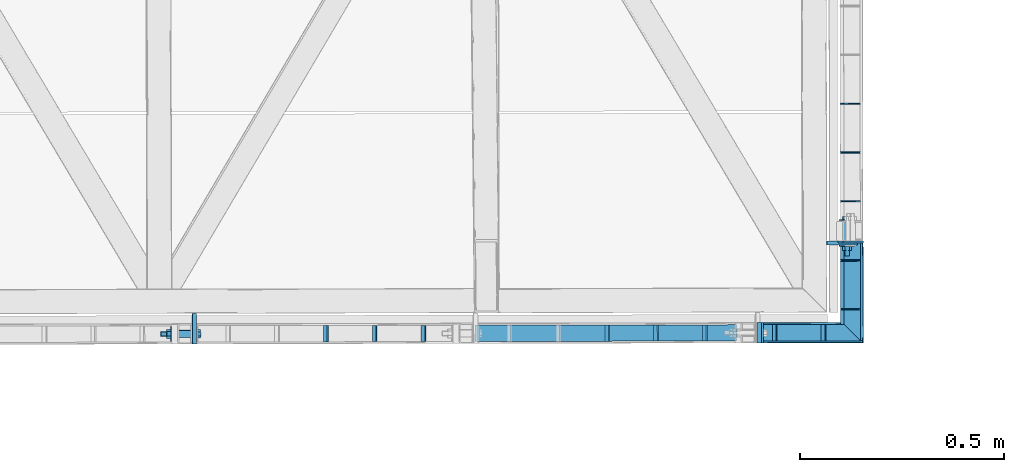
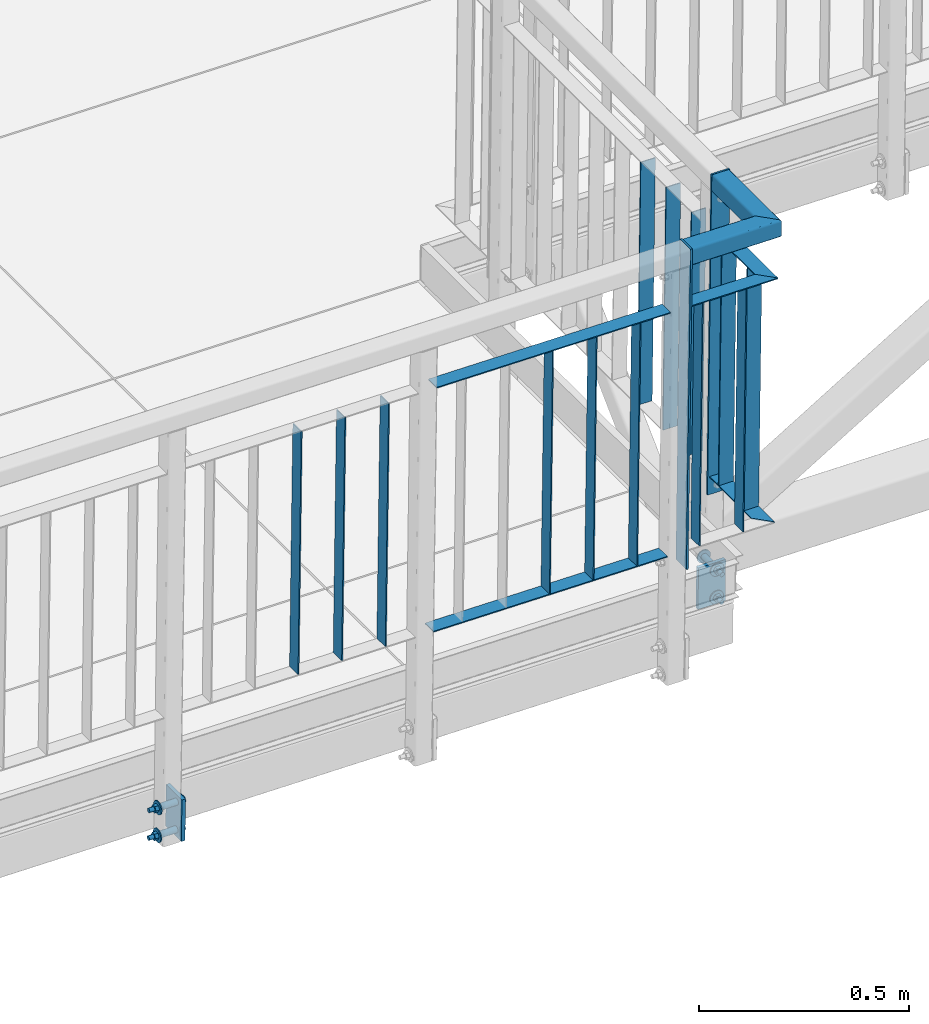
# One storey, part 100 of 169: 24 discrete accessories, 2 mechanical fasteners, 2 elements without a shape of their own.
"""IFC2X3 building model written with IfcOpenShell, lengths in millimetres."""

from ifc_helpers import new_model, si_unit, frame, origin_with_axes, origin_2d_with_axis, place, context, subcontext, project, spatial, polyline, rectangle, hollow_rectangle, circle, outline, extrude, boolean, clip, halfspace, source, transform, mapped, material, type_object, element, aggregate, save


model = new_model("IFC2X3")

# Units and contexts
model_context = context("Model", 3, precision=1e-05, world=origin_with_axes())
body_context = subcontext(model_context, "Body", "Model", "MODEL_VIEW")
ifc_project = project(units=[si_unit("LENGTHUNIT", "METRE", prefix="MILLI"), si_unit("AREAUNIT", "SQUARE_METRE"), si_unit("VOLUMEUNIT", "CUBIC_METRE"), si_unit("MASSUNIT", "GRAM", prefix="KILO"), si_unit("TIMEUNIT", "SECOND"), si_unit("PLANEANGLEUNIT", "RADIAN"), si_unit("SOLIDANGLEUNIT", "STERADIAN"), si_unit("THERMODYNAMICTEMPERATUREUNIT", "DEGREE_CELSIUS"), si_unit("LUMINOUSINTENSITYUNIT", "LUMEN")], contexts=[model_context])

# Site, building, storey
site_placement = place(None, origin_with_axes())
site = spatial("IfcSite", under=ifc_project, at=site_placement, Name="Undefined", CompositionType="ELEMENT")
building_placement = place(site_placement, origin_with_axes())
building = spatial("IfcBuilding", under=site, at=building_placement, Name="Undefined", CompositionType="ELEMENT")
storey_placement = place(building_placement, origin_with_axes())
storey = spatial("IfcBuildingStorey", under=building, at=storey_placement, Name="Undefined", CompositionType="ELEMENT", Elevation=0.0)

# Assembly, discrete accessories
assembly_1_placement = place(storey_placement, origin_with_axes())
assembly_1 = element("IfcElementAssembly", 1, at=assembly_1_placement, inside=storey, Name="Steel Assembly", AssemblyPlace="NOTDEFINED", PredefinedType="RIGID_FRAME")
ifc_material_1 = material(Name="STEEL/S235")
discrete_accessory_type_1 = type_object("IfcDiscreteAccessoryType", Name="BLACHA")
discrete_accessory_1_placement = place(assembly_1_placement, frame((10208.3723872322, -1263.45115133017, 14083.5351938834), z_axis=(0.00186484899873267, -0.999998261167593, 4.28757666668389e-08), x_axis=(0.9999174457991, 0.00186469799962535, -0.0127131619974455)))
discrete_accessory_1 = element("IfcDiscreteAccessory", 2, at=discrete_accessory_1_placement, type_object=discrete_accessory_type_1, material=ifc_material_1, Name="BLACHA", ObjectType="BL5*50", context=body_context, shape_type="SweptSolid", body=[
    extrude(outline(polyline([(0.0, 0.0), (50.0000000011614, 3.27418092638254e-11), (50.0000000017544, 926.000000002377), (3.10365066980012e-08, 926.000000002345), (0.0, 0.0)])), frame((6.80888809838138e-19, -2.87858853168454e-21, -2.49999999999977), z_axis=(0.0, 0.0, 1.0), x_axis=(1.0, 0.0, 0.0)), (0.0, 0.0, 1.0), 5.0),
])
discrete_accessory_2_placement = place(assembly_1_placement, frame((10011.2569939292, -1461.31908740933, 14086.0460518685), z_axis=(-0.999917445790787, -0.00186469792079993, 0.0127131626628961), x_axis=(0.00186484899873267, -0.999998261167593, 4.28757666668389e-08)))
discrete_accessory_2 = element("IfcDiscreteAccessory", 3, at=discrete_accessory_2_placement, type_object=discrete_accessory_type_1, material=ifc_material_1, Name="BLACHA", ObjectType="BL5*50", context=body_context, shape_type="SweptSolid", body=[
    extrude(outline(polyline([(0.0, 0.0), (50.0000000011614, 3.27418092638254e-11), (50.0000000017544, 926.000000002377), (3.10365066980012e-08, 926.000000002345), (0.0, 0.0)])), frame((6.80888809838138e-19, -2.87858853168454e-21, -2.49999999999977), z_axis=(0.0, 0.0, 1.0), x_axis=(1.0, 0.0, 0.0)), (0.0, 0.0, 1.0), 5.0),
])

assembly_2_placement = place(storey_placement, origin_with_axes())
assembly_2 = element("IfcElementAssembly", 4, at=assembly_2_placement, inside=storey, Name="Steel Assembly", AssemblyPlace="NOTDEFINED", PredefinedType="RIGID_FRAME")
discrete_accessory_3_placement = place(assembly_2_placement, frame((10180.0864101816, -1266.00392008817, 13824.8739542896), z_axis=(0.00186484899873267, -0.999998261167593, 4.28757666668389e-08), x_axis=(0.9999174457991, 0.00186469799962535, -0.0127131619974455)))
discrete_accessory_3 = element("IfcDiscreteAccessory", 5, at=discrete_accessory_3_placement, type_object=discrete_accessory_type_1, material=ifc_material_1, Name="BLACHA", ObjectType="BL10*120", context=body_context, shape_type="SweptSolid", body=[
    extrude(outline(polyline([(-5.35749222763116e-11, -59.9999999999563), (5.3567816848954e-11, 59.9999999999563), (75.0000002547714, 59.9999999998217), (75.0000002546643, -60.0000000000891), (-5.35749222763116e-11, -59.9999999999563)])), frame((-1.81898926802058e-12, -1.18000176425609e-16, -5.00000000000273), z_axis=(0.0, 0.0, 1.0), x_axis=(1.0, 0.0, 0.0)), (0.0, 0.0, 1.0), 10.0),
])
discrete_accessory_4_placement = place(assembly_2_placement, frame((8626.53152745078, -1438.90136338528, 13844.6302178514), z_axis=(-0.999917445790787, -0.00186469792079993, 0.0127131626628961), x_axis=(0.00186484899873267, -0.999998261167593, 4.28757666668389e-08)))
discrete_accessory_4 = element("IfcDiscreteAccessory", 6, at=discrete_accessory_4_placement, type_object=discrete_accessory_type_1, material=ifc_material_1, Name="BLACHA", ObjectType="BL10*120", context=body_context, shape_type="SweptSolid", body=[
    extrude(outline(polyline([(75.0000002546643, -60.0000000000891), (-5.35749222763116e-11, -59.9999999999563), (5.3567816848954e-11, 59.9999999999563), (75.0000002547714, 59.9999999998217), (75.0000002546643, -60.0000000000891)])), frame((-1.81898926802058e-12, -1.18000176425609e-16, -5.00000000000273), z_axis=(0.0, 0.0, 1.0), x_axis=(1.0, 0.0, 0.0)), (0.0, 0.0, 1.0), 10.0),
])
aggregate(assembly_2, [discrete_accessory_3, discrete_accessory_4])

# Discrete accessory
discrete_accessory_type_2 = type_object("IfcDiscreteAccessoryType", Name="PORĘCZ")
discrete_accessory_5_placement = place(assembly_1_placement, frame((10251.4320229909, -1485.87123789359, 14133.99713149), z_axis=(-0.012713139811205, -2.37511238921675e-05, -0.999919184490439), x_axis=(-0.999917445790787, -0.00186469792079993, 0.0127131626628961)))
discrete_accessory_5 = element("IfcDiscreteAccessory", 7, at=discrete_accessory_5_placement, type_object=discrete_accessory_type_2, material=ifc_material_1, Name="PORĘCZ", ObjectType="BL40*3", context=body_context, shape_type="Clipping", body=[
    clip(clip(extrude(outline(polyline([(935.000000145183, -19.9999999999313), (291.999805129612, -19.9999999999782), (291.999805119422, 20.0000000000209), (935.000000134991, 20.0000000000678), (935.000000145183, -19.9999999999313)])), frame((1.81898940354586e-12, -1.77635442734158e-15, -1.50000000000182), z_axis=(0.0, 0.0, 1.0), x_axis=(1.0, 0.0, 0.0)), (0.0, 0.0, 1.0), 3.0), halfspace(frame((291.999804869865, 1000.00000000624, -5.55519363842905e-09), z_axis=(1.0, 0.0, 0.0), x_axis=(-2.54700353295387e-10, 0.0, -1.0)), True)), halfspace(frame((934.999999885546, 999.999999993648, 4.02906152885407e-09), z_axis=(-1.0, -3.46944695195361e-18, -1.38777878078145e-17), x_axis=(0.0, 0.0, 1.0)), True)),
])

discrete_accessory_6_placement = place(assembly_1_placement, frame((10260.3947865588, -1485.85449343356, 14838.9401565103), z_axis=(-0.012713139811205, -2.37511238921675e-05, -0.999919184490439), x_axis=(-0.999917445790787, -0.00186469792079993, 0.0127131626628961)))
discrete_accessory_6 = element("IfcDiscreteAccessory", 8, at=discrete_accessory_6_placement, type_object=discrete_accessory_type_2, material=ifc_material_1, Name="PORĘCZ", ObjectType="BL40*3", context=body_context, shape_type="Clipping", body=[
    clip(clip(extrude(outline(polyline([(935.000000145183, -19.9999999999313), (291.999805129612, -19.9999999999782), (291.999805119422, 20.0000000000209), (935.000000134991, 20.0000000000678), (935.000000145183, -19.9999999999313)])), frame((1.81898940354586e-12, -1.77635442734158e-15, -1.50000000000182), z_axis=(0.0, 0.0, 1.0), x_axis=(1.0, 0.0, 0.0)), (0.0, 0.0, 1.0), 3.0), halfspace(frame((291.999804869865, 1000.00000000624, -5.55519363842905e-09), z_axis=(1.0, 0.0, 0.0), x_axis=(-2.54700353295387e-10, 0.0, -1.0)), True)), halfspace(frame((934.999999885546, 999.999999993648, 4.02906152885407e-09), z_axis=(-1.0, -3.46944695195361e-18, -1.38777878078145e-17), x_axis=(0.0, 0.0, 1.0)), True)),
])

discrete_accessory_7_placement = place(assembly_1_placement, frame((9887.43579296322, -1486.55000041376, 14988.693755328), z_axis=(-0.0018648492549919, 0.999998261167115, -4.2996762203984e-08), x_axis=(-0.012713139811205, -2.37511238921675e-05, -0.999919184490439)))
discrete_accessory_7 = element("IfcDiscreteAccessory", 9, at=discrete_accessory_7_placement, type_object=discrete_accessory_type_2, material=ifc_material_1, Name="PORĘCZ", ObjectType="BL40*3", context=body_context, shape_type="Clipping", body=[
    clip(clip(extrude(rectangle(XDim=3.0, YDim=40.0, at=origin_2d_with_axis()), frame((848.500000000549, 1.47191286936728e-15, -8.89750592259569e-16), z_axis=(-1.0, -3.46944695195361e-18, -1.38777878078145e-17), x_axis=(1.73472347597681e-18, -1.0, 0.0)), (0.0, 0.0, 1.0), 702.0), halfspace(frame((848.499999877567, 4.522007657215e-09, 1000.00000000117), z_axis=(-1.0, -3.46944695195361e-18, -1.38777878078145e-17), x_axis=(1.73472347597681e-18, -1.0, 0.0)), True)), halfspace(frame((146.499999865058, 4.97311702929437e-09, 1000.00000000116), z_axis=(1.0, 0.0, 0.0), x_axis=(0.0, 1.0, 0.0)), True)),
])

discrete_accessory_8_placement = place(assembly_1_placement, frame((9767.44569946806, -1486.77376417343, 14990.2193347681), z_axis=(-0.0018648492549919, 0.999998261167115, -4.2996762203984e-08), x_axis=(-0.012713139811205, -2.37511238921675e-05, -0.999919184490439)))
discrete_accessory_8 = element("IfcDiscreteAccessory", 10, at=discrete_accessory_8_placement, type_object=discrete_accessory_type_2, material=ifc_material_1, Name="PORĘCZ", ObjectType="BL40*3", context=body_context, shape_type="Clipping", body=[
    clip(clip(extrude(rectangle(XDim=3.0, YDim=40.0, at=origin_2d_with_axis()), frame((848.500000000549, 1.47191286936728e-15, -8.89750592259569e-16), z_axis=(-1.0, -3.46944695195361e-18, -1.38777878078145e-17), x_axis=(1.73472347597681e-18, -1.0, 0.0)), (0.0, 0.0, 1.0), 702.0), halfspace(frame((848.499999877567, 4.522007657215e-09, 1000.00000000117), z_axis=(-1.0, -3.46944695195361e-18, -1.38777878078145e-17), x_axis=(1.73472347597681e-18, -1.0, 0.0)), True)), halfspace(frame((146.499999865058, 4.97311702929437e-09, 1000.00000000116), z_axis=(1.0, 0.0, 0.0), x_axis=(0.0, 1.0, 0.0)), True)),
])

discrete_accessory_9_placement = place(assembly_1_placement, frame((9647.4556059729, -1486.99752793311, 14991.7449142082), z_axis=(-0.0018648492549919, 0.999998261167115, -4.2996762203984e-08), x_axis=(-0.012713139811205, -2.37511238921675e-05, -0.999919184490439)))
discrete_accessory_9 = element("IfcDiscreteAccessory", 11, at=discrete_accessory_9_placement, type_object=discrete_accessory_type_2, material=ifc_material_1, Name="PORĘCZ", ObjectType="BL40*3", context=body_context, shape_type="Clipping", body=[
    clip(clip(extrude(rectangle(XDim=3.0, YDim=40.0, at=origin_2d_with_axis()), frame((848.500000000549, 1.47191286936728e-15, -8.89750592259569e-16), z_axis=(-1.0, -3.46944695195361e-18, -1.38777878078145e-17), x_axis=(1.73472347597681e-18, -1.0, 0.0)), (0.0, 0.0, 1.0), 702.0), halfspace(frame((848.499999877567, 4.522007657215e-09, 1000.00000000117), z_axis=(-1.0, -3.46944695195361e-18, -1.38777878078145e-17), x_axis=(1.73472347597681e-18, -1.0, 0.0)), True)), halfspace(frame((146.499999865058, 4.97311702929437e-09, 1000.00000000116), z_axis=(1.0, 0.0, 0.0), x_axis=(0.0, 1.0, 0.0)), True)),
])

discrete_accessory_10_placement = place(assembly_1_placement, frame((9196.49283800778, -1487.8385067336, 14997.4785502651), z_axis=(-0.0018648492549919, 0.999998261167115, -4.2996762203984e-08), x_axis=(-0.012713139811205, -2.37511238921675e-05, -0.999919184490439)))
discrete_accessory_10 = element("IfcDiscreteAccessory", 12, at=discrete_accessory_10_placement, type_object=discrete_accessory_type_2, material=ifc_material_1, Name="PORĘCZ", ObjectType="BL40*3", context=body_context, shape_type="Clipping", body=[
    clip(clip(extrude(rectangle(XDim=3.0, YDim=40.0, at=origin_2d_with_axis()), frame((848.500000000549, 1.47191286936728e-15, -8.89750592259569e-16), z_axis=(-1.0, -3.46944695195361e-18, -1.38777878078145e-17), x_axis=(1.73472347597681e-18, -1.0, 0.0)), (0.0, 0.0, 1.0), 702.0), halfspace(frame((848.499999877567, 4.522007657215e-09, 1000.00000000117), z_axis=(-1.0, -3.46944695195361e-18, -1.38777878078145e-17), x_axis=(1.73472347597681e-18, -1.0, 0.0)), True)), halfspace(frame((146.499999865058, 4.97311702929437e-09, 1000.00000000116), z_axis=(1.0, 0.0, 0.0), x_axis=(0.0, 1.0, 0.0)), True)),
])

discrete_accessory_11_placement = place(assembly_1_placement, frame((9076.50274451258, -1488.06227049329, 14999.0041297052), z_axis=(-0.0018648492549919, 0.999998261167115, -4.2996762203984e-08), x_axis=(-0.012713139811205, -2.37511238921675e-05, -0.999919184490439)))
discrete_accessory_11 = element("IfcDiscreteAccessory", 13, at=discrete_accessory_11_placement, type_object=discrete_accessory_type_2, material=ifc_material_1, Name="PORĘCZ", ObjectType="BL40*3", context=body_context, shape_type="Clipping", body=[
    clip(clip(extrude(rectangle(XDim=3.0, YDim=40.0, at=origin_2d_with_axis()), frame((848.500000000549, 1.47191286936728e-15, -8.89750592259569e-16), z_axis=(-1.0, -3.46944695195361e-18, -1.38777878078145e-17), x_axis=(1.73472347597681e-18, -1.0, 0.0)), (0.0, 0.0, 1.0), 702.0), halfspace(frame((848.499999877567, 4.522007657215e-09, 1000.00000000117), z_axis=(-1.0, -3.46944695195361e-18, -1.38777878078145e-17), x_axis=(1.73472347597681e-18, -1.0, 0.0)), True)), halfspace(frame((146.499999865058, 4.97311702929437e-09, 1000.00000000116), z_axis=(1.0, 0.0, 0.0), x_axis=(0.0, 1.0, 0.0)), True)),
])

discrete_accessory_12_placement = place(assembly_1_placement, frame((8956.51265101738, -1488.28603425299, 15000.5297091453), z_axis=(-0.0018648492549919, 0.999998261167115, -4.2996762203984e-08), x_axis=(-0.012713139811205, -2.37511238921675e-05, -0.999919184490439)))
discrete_accessory_12 = element("IfcDiscreteAccessory", 14, at=discrete_accessory_12_placement, type_object=discrete_accessory_type_2, material=ifc_material_1, Name="PORĘCZ", ObjectType="BL40*3", context=body_context, shape_type="Clipping", body=[
    clip(clip(extrude(rectangle(XDim=3.0, YDim=40.0, at=origin_2d_with_axis()), frame((848.500000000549, 1.47191286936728e-15, -8.89750592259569e-16), z_axis=(-1.0, -3.46944695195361e-18, -1.38777878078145e-17), x_axis=(1.73472347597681e-18, -1.0, 0.0)), (0.0, 0.0, 1.0), 702.0), halfspace(frame((848.499999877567, 4.522007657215e-09, 1000.00000000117), z_axis=(-1.0, -3.46944695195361e-18, -1.38777878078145e-17), x_axis=(1.73472347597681e-18, -1.0, 0.0)), True)), halfspace(frame((146.499999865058, 4.97311702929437e-09, 1000.00000000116), z_axis=(1.0, 0.0, 0.0), x_axis=(0.0, 1.0, 0.0)), True)),
])

discrete_accessory_13_placement = place(assembly_1_placement, frame((10244.9087804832, -1308.38305585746, 14984.1445520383), z_axis=(-0.999917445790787, -0.00186469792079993, 0.0127131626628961), x_axis=(-0.012713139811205, -2.37511238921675e-05, -0.999919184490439)))
discrete_accessory_13 = element("IfcDiscreteAccessory", 15, at=discrete_accessory_13_placement, type_object=discrete_accessory_type_2, material=ifc_material_1, Name="PORĘCZ", ObjectType="BL40*3", context=body_context, shape_type="Clipping", body=[
    clip(clip(extrude(rectangle(XDim=3.0, YDim=40.0, at=origin_2d_with_axis()), frame((848.500000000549, 1.47191286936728e-15, -8.89750592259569e-16), z_axis=(-1.0, -3.46944695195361e-18, -1.38777878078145e-17), x_axis=(1.73472347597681e-18, -1.0, 0.0)), (0.0, 0.0, 1.0), 702.0), halfspace(frame((848.499999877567, 4.522007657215e-09, 1000.00000000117), z_axis=(-1.0, -3.46944695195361e-18, -1.38777878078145e-17), x_axis=(1.73472347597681e-18, -1.0, 0.0)), True)), halfspace(frame((146.499999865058, 4.97311702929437e-09, 1000.00000000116), z_axis=(1.0, 0.0, 0.0), x_axis=(0.0, 1.0, 0.0)), True)),
])

discrete_accessory_14_placement = place(assembly_1_placement, frame((10245.1325623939, -1428.3828471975, 14984.1445571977), z_axis=(-0.999917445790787, -0.00186469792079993, 0.0127131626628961), x_axis=(-0.012713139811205, -2.37511238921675e-05, -0.999919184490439)))
discrete_accessory_14 = element("IfcDiscreteAccessory", 16, at=discrete_accessory_14_placement, type_object=discrete_accessory_type_2, material=ifc_material_1, Name="PORĘCZ", ObjectType="BL40*3", context=body_context, shape_type="Clipping", body=[
    clip(clip(extrude(rectangle(XDim=3.0, YDim=40.0, at=origin_2d_with_axis()), frame((848.500000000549, 1.47191286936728e-15, -8.89750592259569e-16), z_axis=(-1.0, -3.46944695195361e-18, -1.38777878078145e-17), x_axis=(1.73472347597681e-18, -1.0, 0.0)), (0.0, 0.0, 1.0), 702.0), halfspace(frame((848.499999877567, 4.522007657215e-09, 1000.00000000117), z_axis=(-1.0, -3.46944695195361e-18, -1.38777878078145e-17), x_axis=(1.73472347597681e-18, -1.0, 0.0)), True)), halfspace(frame((146.499999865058, 4.97311702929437e-09, 1000.00000000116), z_axis=(1.0, 0.0, 0.0), x_axis=(0.0, 1.0, 0.0)), True)),
])

discrete_accessory_15_placement = place(assembly_1_placement, frame((10179.0785951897, -1486.00612994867, 14984.9857468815), z_axis=(-0.0018648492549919, 0.999998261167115, -4.2996762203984e-08), x_axis=(-0.012713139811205, -2.37511238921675e-05, -0.999919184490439)))
discrete_accessory_15 = element("IfcDiscreteAccessory", 17, at=discrete_accessory_15_placement, type_object=discrete_accessory_type_2, material=ifc_material_1, Name="PORĘCZ", ObjectType="BL40*3", context=body_context, shape_type="Clipping", body=[
    clip(clip(extrude(rectangle(XDim=3.0, YDim=40.0, at=origin_2d_with_axis()), frame((848.500000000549, 1.47191286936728e-15, -8.89750592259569e-16), z_axis=(-1.0, -3.46944695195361e-18, -1.38777878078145e-17), x_axis=(1.73472347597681e-18, -1.0, 0.0)), (0.0, 0.0, 1.0), 702.0), halfspace(frame((848.499999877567, 4.522007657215e-09, 1000.00000000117), z_axis=(-1.0, -3.46944695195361e-18, -1.38777878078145e-17), x_axis=(1.73472347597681e-18, -1.0, 0.0)), True)), halfspace(frame((146.499999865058, 4.97311702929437e-09, 1000.00000000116), z_axis=(1.0, 0.0, 0.0), x_axis=(0.0, 1.0, 0.0)), True)),
])

discrete_accessory_16_placement = place(assembly_1_placement, frame((10059.0885016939, -1486.2298937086, 14986.5113263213), z_axis=(-0.0018648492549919, 0.999998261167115, -4.2996762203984e-08), x_axis=(-0.012713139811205, -2.37511238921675e-05, -0.999919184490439)))
discrete_accessory_16 = element("IfcDiscreteAccessory", 18, at=discrete_accessory_16_placement, type_object=discrete_accessory_type_2, material=ifc_material_1, Name="PORĘCZ", ObjectType="BL40*3", context=body_context, shape_type="Clipping", body=[
    clip(clip(extrude(rectangle(XDim=3.0, YDim=40.0, at=origin_2d_with_axis()), frame((848.500000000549, 1.47191286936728e-15, -8.89750592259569e-16), z_axis=(-1.0, -3.46944695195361e-18, -1.38777878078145e-17), x_axis=(1.73472347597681e-18, -1.0, 0.0)), (0.0, 0.0, 1.0), 702.0), halfspace(frame((848.499999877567, 4.522007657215e-09, 1000.00000000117), z_axis=(-1.0, -3.46944695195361e-18, -1.38777878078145e-17), x_axis=(1.73472347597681e-18, -1.0, 0.0)), True)), halfspace(frame((146.499999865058, 4.97311702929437e-09, 1000.00000000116), z_axis=(1.0, 0.0, 0.0), x_axis=(0.0, 1.0, 0.0)), True)),
])

discrete_accessory_17_placement = place(assembly_1_placement, frame((10242.9767952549, -1260.88658256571, 14839.1562680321), z_axis=(0.012713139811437, 2.3750999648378e-05, 0.999919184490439), x_axis=(0.00186484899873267, -0.999998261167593, 4.28757666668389e-08)))
discrete_accessory_17 = element("IfcDiscreteAccessory", 19, at=discrete_accessory_17_placement, type_object=discrete_accessory_type_2, material=ifc_material_1, Name="PORĘCZ", ObjectType="BL40*3", context=body_context, shape_type="CSG", body=[
    boolean("DIFFERENCE", boolean("DIFFERENCE", boolean("DIFFERENCE", boolean("DIFFERENCE", extrude(outline(polyline([(5.00000188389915, -20.0000000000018), (4.99999984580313, 20.0000000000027), (245.000001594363, 19.9999999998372), (205.000001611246, -20.0000000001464), (5.00000188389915, -20.0000000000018)])), frame((1.81898940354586e-12, -1.77635442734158e-15, -1.50000000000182), z_axis=(0.0, 0.0, 1.0), x_axis=(1.0, 0.0, 0.0)), (0.0, 0.0, 1.0), 3.0), extrude(rectangle(XDim=51.0, YDim=51.0, at=origin_2d_with_axis()), frame((-25.0000001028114, -5.88502217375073e-08, 139.999999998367), z_axis=(-2.54700353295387e-10, 0.0, -1.0), x_axis=(1.0, 0.0, 0.0)), (0.0, 0.0, 1.0), 280.0)), halfspace(frame((5.00000113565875, -999.999999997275, 1.17870513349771e-09), z_axis=(1.0, 0.0, 0.0), x_axis=(0.0, 0.0, 1.0)), True)), halfspace(frame((205.000001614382, -19.9999999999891, 9.09494701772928e-12), z_axis=(0.707106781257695, -0.7071067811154, 8.78533101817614e-11), x_axis=(0.0, 0.0, 1.0)), False)), halfspace(frame((1.74242813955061e-07, -999.999999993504, -4.57112037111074e-09), z_axis=(1.0, 0.0, 0.0), x_axis=(0.0, 0.0, 1.0)), True)),
])

discrete_accessory_18_placement = place(assembly_1_placement, frame((10020.2583649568, -1486.30230598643, 14987.0050210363), z_axis=(-0.0018648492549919, 0.999998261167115, -4.2996762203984e-08), x_axis=(0.9999174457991, 0.00186469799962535, -0.0127131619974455)))
discrete_accessory_18 = element("IfcDiscreteAccessory", 20, at=discrete_accessory_18_placement, type_object=discrete_accessory_type_2, material=ifc_material_1, Name="PORĘCZ", ObjectType="RHS50*3", context=body_context, shape_type="Clipping", body=[
    clip(clip(extrude(hollow_rectangle(XDim=50.0, YDim=50.0, WallThickness=3.0, InnerFilletRadius=3.0, OuterFilletRadius=6.0, at=origin_2d_with_axis()), frame((251.722085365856, 3.63797880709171e-12, -8.50038415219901e-18), z_axis=(-1.0, -3.46944695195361e-18, -1.38777878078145e-17), x_axis=(1.73472347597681e-18, -1.0, 0.0)), (0.0, 0.0, 1.0), 246.72), halfspace(frame((200.000001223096, -9.74578142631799e-08, 25.0000000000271), z_axis=(-0.707106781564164, -2.34576254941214e-10, -0.707106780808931), x_axis=(1.73472347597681e-18, -1.0, 0.0)), True)), halfspace(frame((4.99999708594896, 5.00222085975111e-10, 999.999999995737), z_axis=(1.0, 0.0, 0.0), x_axis=(0.0, 1.0, 0.0)), True)),
])

discrete_accessory_19_placement = place(assembly_1_placement, frame((10243.3963849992, -1485.88619294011, 14839.156277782), z_axis=(-0.012713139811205, -2.37511238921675e-05, -0.999919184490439), x_axis=(-0.999917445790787, -0.00186469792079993, 0.0127131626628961)))
discrete_accessory_19 = element("IfcDiscreteAccessory", 21, at=discrete_accessory_19_placement, type_object=discrete_accessory_type_2, material=ifc_material_1, Name="PORĘCZ", ObjectType="BL40*3", context=body_context, shape_type="CSG", body=[
    boolean("DIFFERENCE", boolean("DIFFERENCE", boolean("DIFFERENCE", boolean("DIFFERENCE", extrude(outline(polyline([(220.000004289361, 20.0000000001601), (220.000004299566, -19.9999999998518), (-20.000001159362, -19.9999999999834), (19.9999987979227, 19.9999999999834), (220.000004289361, 20.0000000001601)])), frame((1.81898940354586e-12, -1.77635442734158e-15, -1.50000000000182), z_axis=(0.0, 0.0, 1.0), x_axis=(1.0, 0.0, 0.0)), (0.0, 0.0, 1.0), 3.0), extrude(rectangle(XDim=51.0, YDim=51.0, at=origin_2d_with_axis()), frame((249.999999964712, -1.18792922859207e-08, -139.999999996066), z_axis=(0.0, 0.0, 1.0), x_axis=(1.0, 0.0, 0.0)), (0.0, 0.0, 1.0), 280.0)), halfspace(frame((220.000002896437, 999.999999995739, 3.80168785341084e-10), z_axis=(-1.0, -3.46944695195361e-18, -1.38777878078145e-17), x_axis=(0.0, 0.0, 1.0)), True)), halfspace(frame((19.9999987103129, 20.0000000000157, 5.85641828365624e-08), z_axis=(0.707106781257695, -0.7071067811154, 8.78533101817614e-11), x_axis=(-2.54700353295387e-10, 0.0, -1.0)), True)), halfspace(frame((224.999999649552, 999.999999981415, 6.55563781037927e-09), z_axis=(-1.0, -3.46944695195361e-18, -1.38777878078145e-17), x_axis=(0.0, 0.0, 1.0)), True)),
])

discrete_accessory_20_placement = place(assembly_1_placement, frame((10244.1908137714, -923.383725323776, 14984.1445354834), z_axis=(-0.999917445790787, -0.00186469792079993, 0.0127131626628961), x_axis=(-0.012713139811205, -2.37511238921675e-05, -0.999919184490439)))
discrete_accessory_20 = element("IfcDiscreteAccessory", 22, at=discrete_accessory_20_placement, type_object=discrete_accessory_type_2, material=ifc_material_1, Name="PORĘCZ", ObjectType="BL40*3", context=body_context, shape_type="Clipping", body=[
    clip(clip(extrude(rectangle(XDim=3.0, YDim=40.0, at=origin_2d_with_axis()), frame((848.500000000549, 1.47191286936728e-15, -8.89750592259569e-16), z_axis=(-1.0, -3.46944695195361e-18, -1.38777878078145e-17), x_axis=(1.73472347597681e-18, -1.0, 0.0)), (0.0, 0.0, 1.0), 702.0), halfspace(frame((848.499999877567, 4.522007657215e-09, 1000.00000000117), z_axis=(-1.0, -3.46944695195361e-18, -1.38777878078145e-17), x_axis=(1.73472347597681e-18, -1.0, 0.0)), True)), halfspace(frame((146.499999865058, 4.97311702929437e-09, 1000.00000000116), z_axis=(1.0, 0.0, 0.0), x_axis=(0.0, 1.0, 0.0)), True)),
])

discrete_accessory_21_placement = place(assembly_1_placement, frame((10244.414595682, -1043.38351666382, 14984.1445406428), z_axis=(-0.999917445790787, -0.00186469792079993, 0.0127131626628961), x_axis=(-0.012713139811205, -2.37511238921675e-05, -0.999919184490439)))
discrete_accessory_21 = element("IfcDiscreteAccessory", 23, at=discrete_accessory_21_placement, type_object=discrete_accessory_type_2, material=ifc_material_1, Name="PORĘCZ", ObjectType="BL40*3", context=body_context, shape_type="Clipping", body=[
    clip(clip(extrude(rectangle(XDim=3.0, YDim=40.0, at=origin_2d_with_axis()), frame((848.500000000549, 1.47191286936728e-15, -8.89750592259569e-16), z_axis=(-1.0, -3.46944695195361e-18, -1.38777878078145e-17), x_axis=(1.73472347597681e-18, -1.0, 0.0)), (0.0, 0.0, 1.0), 702.0), halfspace(frame((848.499999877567, 4.522007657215e-09, 1000.00000000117), z_axis=(-1.0, -3.46944695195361e-18, -1.38777878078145e-17), x_axis=(1.73472347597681e-18, -1.0, 0.0)), True)), halfspace(frame((146.499999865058, 4.97311702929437e-09, 1000.00000000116), z_axis=(1.0, 0.0, 0.0), x_axis=(0.0, 1.0, 0.0)), True)),
])

discrete_accessory_22_placement = place(assembly_1_placement, frame((10244.6383775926, -1163.38330800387, 14984.1445458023), z_axis=(-0.999917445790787, -0.00186469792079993, 0.0127131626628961), x_axis=(-0.012713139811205, -2.37511238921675e-05, -0.999919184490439)))
discrete_accessory_22 = element("IfcDiscreteAccessory", 24, at=discrete_accessory_22_placement, type_object=discrete_accessory_type_2, material=ifc_material_1, Name="PORĘCZ", ObjectType="BL40*3", context=body_context, shape_type="Clipping", body=[
    clip(clip(extrude(rectangle(XDim=3.0, YDim=40.0, at=origin_2d_with_axis()), frame((848.500000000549, 1.47191286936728e-15, -8.89750592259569e-16), z_axis=(-1.0, -3.46944695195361e-18, -1.38777878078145e-17), x_axis=(1.73472347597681e-18, -1.0, 0.0)), (0.0, 0.0, 1.0), 702.0), halfspace(frame((848.499999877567, 4.522007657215e-09, 1000.00000000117), z_axis=(-1.0, -3.46944695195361e-18, -1.38777878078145e-17), x_axis=(1.73472347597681e-18, -1.0, 0.0)), True)), halfspace(frame((146.499999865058, 4.97311702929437e-09, 1000.00000000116), z_axis=(1.0, 0.0, 0.0), x_axis=(0.0, 1.0, 0.0)), True)),
])

discrete_accessory_23_placement = place(assembly_1_placement, frame((10234.0140315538, -1260.90332710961, 14134.213243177), z_axis=(0.012713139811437, 2.3750999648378e-05, 0.999919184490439), x_axis=(0.00186484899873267, -0.999998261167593, 4.28757666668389e-08)))
discrete_accessory_23 = element("IfcDiscreteAccessory", 25, at=discrete_accessory_23_placement, type_object=discrete_accessory_type_2, material=ifc_material_1, Name="PORĘCZ", ObjectType="BL40*3", context=body_context, shape_type="CSG", body=[
    boolean("DIFFERENCE", boolean("DIFFERENCE", boolean("DIFFERENCE", boolean("DIFFERENCE", extrude(outline(polyline([(5.00000188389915, -20.0000000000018), (4.99999984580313, 20.0000000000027), (245.000001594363, 19.9999999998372), (205.000001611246, -20.0000000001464), (5.00000188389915, -20.0000000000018)])), frame((1.81898940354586e-12, -1.77635442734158e-15, -1.50000000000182), z_axis=(0.0, 0.0, 1.0), x_axis=(1.0, 0.0, 0.0)), (0.0, 0.0, 1.0), 3.0), extrude(rectangle(XDim=51.0, YDim=51.0, at=origin_2d_with_axis()), frame((-25.0000001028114, -5.88502217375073e-08, 139.999999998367), z_axis=(-2.54700353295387e-10, 0.0, -1.0), x_axis=(1.0, 0.0, 0.0)), (0.0, 0.0, 1.0), 280.0)), halfspace(frame((5.00000113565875, -999.999999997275, 1.17870513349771e-09), z_axis=(1.0, 0.0, 0.0), x_axis=(0.0, 0.0, 1.0)), True)), halfspace(frame((205.000001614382, -19.9999999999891, 9.09494701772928e-12), z_axis=(0.707106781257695, -0.7071067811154, 8.78533101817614e-11), x_axis=(0.0, 0.0, 1.0)), False)), halfspace(frame((1.74242813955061e-07, -999.999999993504, -4.57112037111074e-09), z_axis=(1.0, 0.0, 0.0), x_axis=(0.0, 0.0, 1.0)), True)),
])

discrete_accessory_24_placement = place(assembly_1_placement, frame((10245.2397914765, -1485.88274734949, 14984.1445596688), z_axis=(-0.999917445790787, -0.00186469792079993, 0.0127131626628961), x_axis=(-0.0018648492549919, 0.999998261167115, -4.2996762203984e-08)))
discrete_accessory_24 = element("IfcDiscreteAccessory", 26, at=discrete_accessory_24_placement, type_object=discrete_accessory_type_2, material=ifc_material_1, Name="PORĘCZ", ObjectType="RHS50*3", context=body_context, shape_type="Clipping", body=[
    clip(clip(extrude(hollow_rectangle(XDim=50.0, YDim=50.0, WallThickness=3.0, InnerFilletRadius=3.0, OuterFilletRadius=6.0, at=origin_2d_with_axis()), frame((220.000000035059, 5.64865096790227e-19, 9.09533525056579e-13), z_axis=(-1.0, -3.46944695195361e-18, -1.38777878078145e-17), x_axis=(1.73472347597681e-18, -1.0, 0.0)), (0.0, 0.0, 1.0), 245.35), halfspace(frame((219.999998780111, -1.30057742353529e-09, 999.999999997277), z_axis=(-1.0, -3.46944695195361e-18, -1.38777878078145e-17), x_axis=(1.73472347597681e-18, -1.0, 0.0)), True)), halfspace(frame((24.9999984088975, -9.09494701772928e-12, 24.9999999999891), z_axis=(-0.707106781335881, -2.34577541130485e-10, 0.707106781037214), x_axis=(1.73472347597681e-18, -1.0, 0.0)), False)),
])

# Mechanical fastener
ifc_material_2 = material(Name="Undefined")
discrete_accessory_type_3 = type_object("IfcDiscreteAccessoryType", Name="Bolt assembly")
shared_shape_1 = source(origin_with_axes(), body_context, "Body", "SweptSolid", [
    extrude(circle(Radius=9.0, at=origin_2d_with_axis()), frame((0.0, -4.90000000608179, 0.0), z_axis=(0.0, 1.0, 0.0), x_axis=(1.0, 0.0, 0.0)), (0.0, 0.0, 1.0), 10.0),
    extrude(circle(Radius=9.0, at=origin_2d_with_axis()), frame((0.0, 4.89999999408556, 0.0), z_axis=(0.0, 1.0, 0.0), x_axis=(1.0, 0.0, 0.0)), (0.0, 0.0, 1.0), 50.1),
    extrude(outline(polyline([(10.39230484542, 0.0), (5.19615242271, 9.00000000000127), (-5.19615242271, 9.00000000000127), (-10.39230484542, 0.0), (-5.19615242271, -9.00000000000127), (5.19615242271, -9.00000000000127), (10.39230484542, 0.0)])), frame((0.0, -15.5000000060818, 0.0), z_axis=(0.0, 1.0, 0.0), x_axis=(1.0, 0.0, 0.0)), (0.0, 0.0, 1.0), 7.5),
    extrude(circle(Radius=6.0, at=origin_2d_with_axis()), frame((0.0, -8.00000000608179, 0.0), z_axis=(0.0, 1.0, 0.0), x_axis=(1.0, 0.0, 0.0)), (0.0, 0.0, 1.0), 90.0),
    extrude(circle(Radius=18.5, at=origin_2d_with_axis()), frame((0.0, -8.00000000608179, 0.0), z_axis=(0.0, 1.0, 0.0), x_axis=(1.0, 0.0, 0.0)), (0.0, 0.0, 1.0), 3.0),
    extrude(circle(Radius=18.5, at=origin_2d_with_axis()), frame((0.0, 54.9999999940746, 0.0), z_axis=(0.0, 1.0, 0.0), x_axis=(1.0, 0.0, 0.0)), (0.0, 0.0, 1.0), 3.0),
    extrude(outline(polyline([(10.96965511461, 0.0), (5.484827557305, 9.50000000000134), (-5.484827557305, 9.50000000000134), (-10.96965511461, 0.0), (-5.484827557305, -9.50000000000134), (5.484827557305, -9.50000000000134), (10.96965511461, 0.0)])), frame((0.0, 57.9999999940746, 0.0), z_axis=(0.0, 1.0, 0.0), x_axis=(1.0, 0.0, 0.0)), (0.0, 0.0, 1.0), 10.0),
])
mechanical_fastener_1_placement = place(assembly_1_placement, frame((8626.63112647, -1488.90126419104, 13845.1301795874), z_axis=(0.0127140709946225, -0.00047624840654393, 0.999919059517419), x_axis=(-0.00185849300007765, 0.999998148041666, 0.000499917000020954)))
mechanical_fastener_1 = element("IfcMechanicalFastener", 27, at=mechanical_fastener_1_placement, type_object=discrete_accessory_type_3, material=ifc_material_2, Name="Bolt assembly", NominalDiameter=12.0, NominalLength=90.0, context=body_context, shape_type="MappedRepresentation", body=[
    mapped(shared_shape_1, transform((-1.15463194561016e-14, 5.45696821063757e-11, -39.9999999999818))),
    mapped(shared_shape_1, transform((8.88178419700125e-15, -5.54791768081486e-11, 39.99999999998))),
])

shared_shape_2 = source(origin_with_axes(), body_context, "Body", "SweptSolid", [
    extrude(circle(Radius=9.0, at=origin_2d_with_axis()), frame((0.0, -5.10000000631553, 0.0), z_axis=(0.0, 1.0, 0.0), x_axis=(1.0, 0.0, 0.0)), (0.0, 0.0, 1.0), 10.1),
    extrude(circle(Radius=9.0, at=origin_2d_with_axis()), frame((0.0, -54.9000041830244, 0.0), z_axis=(0.0, 1.0, 0.0), x_axis=(1.0, 0.0, 0.0)), (0.0, 0.0, 1.0), 50.0),
    extrude(outline(polyline([(10.39230484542, 0.0), (5.19615242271, 9.00000000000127), (-5.19615242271, 9.00000000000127), (-10.39230484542, 0.0), (-5.19615242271, -9.00000000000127), (5.19615242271, -9.00000000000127), (10.39230484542, 0.0)])), frame((0.0, -65.5000041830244, 0.0), z_axis=(0.0, 1.0, 0.0), x_axis=(1.0, 0.0, 0.0)), (0.0, 0.0, 1.0), 7.5),
    extrude(circle(Radius=6.0, at=origin_2d_with_axis()), frame((0.0, -58.0000041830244, 0.0), z_axis=(0.0, 1.0, 0.0), x_axis=(1.0, 0.0, 0.0)), (0.0, 0.0, 1.0), 90.0),
    extrude(circle(Radius=18.5, at=origin_2d_with_axis()), frame((0.0, -58.0000041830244, 0.0), z_axis=(0.0, 1.0, 0.0), x_axis=(1.0, 0.0, 0.0)), (0.0, 0.0, 1.0), 3.0),
    extrude(circle(Radius=18.5, at=origin_2d_with_axis()), frame((0.0, 4.99997856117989, 0.0), z_axis=(0.0, 1.0, 0.0), x_axis=(1.0, 0.0, 0.0)), (0.0, 0.0, 1.0), 3.0),
    extrude(outline(polyline([(10.96965511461, 0.0), (5.484827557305, 9.50000000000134), (-5.484827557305, 9.50000000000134), (-10.96965511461, 0.0), (-5.484827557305, -9.50000000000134), (5.484827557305, -9.50000000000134), (10.96965511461, 0.0)])), frame((0.0, 7.99999999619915, 0.0), z_axis=(0.0, 1.0, 0.0), x_axis=(1.0, 0.0, 0.0)), (0.0, 0.0, 1.0), 10.0),
])
mechanical_fastener_2_placement = place(assembly_1_placement, frame((10230.0886388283, -1265.9106733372, 13824.738255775), z_axis=(0.0132130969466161, 2.46839999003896e-05, 0.9999127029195), x_axis=(-0.999910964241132, -0.00186468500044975, 0.0132131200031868)))
mechanical_fastener_2 = element("IfcMechanicalFastener", 28, at=mechanical_fastener_2_placement, type_object=discrete_accessory_type_3, material=ifc_material_2, Name="Bolt assembly", NominalDiameter=12.0, NominalLength=90.0, context=body_context, shape_type="MappedRepresentation", body=[
    mapped(shared_shape_2, transform((-1.15463194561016e-14, 5.45696821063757e-11, -39.9999999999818))),
    mapped(shared_shape_2, transform((8.88178419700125e-15, -5.54791768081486e-11, 39.99999999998))),
])

aggregate(assembly_1, [discrete_accessory_5, discrete_accessory_6, discrete_accessory_7, discrete_accessory_8, discrete_accessory_9, discrete_accessory_10, discrete_accessory_11, discrete_accessory_12, discrete_accessory_1, discrete_accessory_2, discrete_accessory_13, discrete_accessory_14, discrete_accessory_15, discrete_accessory_16, discrete_accessory_17, mechanical_fastener_2, discrete_accessory_18, discrete_accessory_19, discrete_accessory_20, discrete_accessory_21, discrete_accessory_22, discrete_accessory_23, discrete_accessory_24, mechanical_fastener_1])

save(model, "model.ifc")
